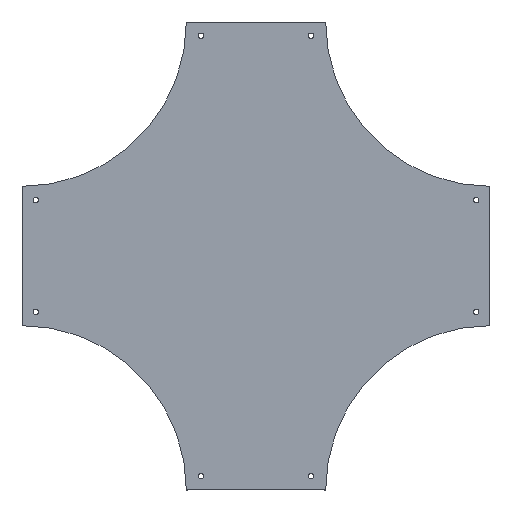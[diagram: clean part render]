
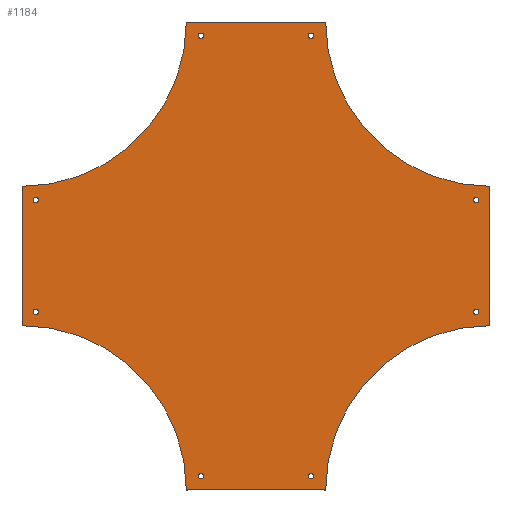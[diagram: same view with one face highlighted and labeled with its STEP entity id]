
A CAD part, top view. The second image highlights one B-rep face of the part: STEP entity #1184.
In plain terms, the highlighted planar face has unit normal (0, 0, 1).
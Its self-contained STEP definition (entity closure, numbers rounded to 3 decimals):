
#86=FACE_BOUND('',#177,.T.);
#87=FACE_BOUND('',#178,.T.);
#88=FACE_BOUND('',#179,.T.);
#89=FACE_BOUND('',#180,.T.);
#90=FACE_BOUND('',#181,.T.);
#91=FACE_BOUND('',#182,.T.);
#92=FACE_BOUND('',#183,.T.);
#93=FACE_BOUND('',#184,.T.);
#102=FACE_OUTER_BOUND('',#176,.T.);
#176=EDGE_LOOP('',(#810,#811,#812,#813,#814,#815,#816,#817));
#177=EDGE_LOOP('',(#818,#819));
#178=EDGE_LOOP('',(#820,#821));
#179=EDGE_LOOP('',(#822,#823));
#180=EDGE_LOOP('',(#824,#825));
#181=EDGE_LOOP('',(#826,#827));
#182=EDGE_LOOP('',(#828,#829));
#183=EDGE_LOOP('',(#830,#831));
#184=EDGE_LOOP('',(#832,#833));
#266=CIRCLE('',#1270,298.5);
#267=CIRCLE('',#1271,298.5);
#268=CIRCLE('',#1272,298.5);
#269=CIRCLE('',#1273,298.5);
#270=CIRCLE('',#1274,5.);
#271=CIRCLE('',#1275,5.);
#272=CIRCLE('',#1276,5.);
#273=CIRCLE('',#1277,5.);
#274=CIRCLE('',#1278,5.);
#275=CIRCLE('',#1279,5.);
#276=CIRCLE('',#1280,5.);
#277=CIRCLE('',#1281,5.);
#278=CIRCLE('',#1282,5.);
#279=CIRCLE('',#1283,5.);
#280=CIRCLE('',#1284,5.);
#281=CIRCLE('',#1285,5.);
#282=CIRCLE('',#1286,5.);
#283=CIRCLE('',#1287,5.);
#284=CIRCLE('',#1288,5.);
#285=CIRCLE('',#1289,5.);
#338=LINE('',#1839,#434);
#339=LINE('',#1843,#435);
#340=LINE('',#1847,#436);
#341=LINE('',#1851,#437);
#434=VECTOR('',#1430,304.8);
#435=VECTOR('',#1433,304.8);
#436=VECTOR('',#1436,304.8);
#437=VECTOR('',#1439,304.8);
#530=VERTEX_POINT('',#1837);
#531=VERTEX_POINT('',#1838);
#532=VERTEX_POINT('',#1840);
#533=VERTEX_POINT('',#1842);
#534=VERTEX_POINT('',#1844);
#535=VERTEX_POINT('',#1846);
#536=VERTEX_POINT('',#1848);
#537=VERTEX_POINT('',#1850);
#538=VERTEX_POINT('',#1853);
#539=VERTEX_POINT('',#1854);
#540=VERTEX_POINT('',#1857);
#541=VERTEX_POINT('',#1858);
#542=VERTEX_POINT('',#1861);
#543=VERTEX_POINT('',#1862);
#544=VERTEX_POINT('',#1865);
#545=VERTEX_POINT('',#1866);
#546=VERTEX_POINT('',#1869);
#547=VERTEX_POINT('',#1870);
#548=VERTEX_POINT('',#1873);
#549=VERTEX_POINT('',#1874);
#550=VERTEX_POINT('',#1877);
#551=VERTEX_POINT('',#1878);
#552=VERTEX_POINT('',#1881);
#553=VERTEX_POINT('',#1882);
#642=EDGE_CURVE('',#530,#531,#338,.T.);
#643=EDGE_CURVE('',#531,#532,#266,.T.);
#644=EDGE_CURVE('',#532,#533,#339,.T.);
#645=EDGE_CURVE('',#533,#534,#267,.T.);
#646=EDGE_CURVE('',#534,#535,#340,.T.);
#647=EDGE_CURVE('',#535,#536,#268,.T.);
#648=EDGE_CURVE('',#536,#537,#341,.T.);
#649=EDGE_CURVE('',#537,#530,#269,.T.);
#650=EDGE_CURVE('',#538,#539,#270,.T.);
#651=EDGE_CURVE('',#539,#538,#271,.T.);
#652=EDGE_CURVE('',#540,#541,#272,.T.);
#653=EDGE_CURVE('',#541,#540,#273,.T.);
#654=EDGE_CURVE('',#542,#543,#274,.T.);
#655=EDGE_CURVE('',#543,#542,#275,.T.);
#656=EDGE_CURVE('',#544,#545,#276,.T.);
#657=EDGE_CURVE('',#545,#544,#277,.T.);
#658=EDGE_CURVE('',#546,#547,#278,.T.);
#659=EDGE_CURVE('',#547,#546,#279,.T.);
#660=EDGE_CURVE('',#548,#549,#280,.T.);
#661=EDGE_CURVE('',#549,#548,#281,.T.);
#662=EDGE_CURVE('',#550,#551,#282,.T.);
#663=EDGE_CURVE('',#551,#550,#283,.T.);
#664=EDGE_CURVE('',#552,#553,#284,.T.);
#665=EDGE_CURVE('',#553,#552,#285,.T.);
#810=ORIENTED_EDGE('',*,*,#642,.T.);
#811=ORIENTED_EDGE('',*,*,#643,.T.);
#812=ORIENTED_EDGE('',*,*,#644,.T.);
#813=ORIENTED_EDGE('',*,*,#645,.T.);
#814=ORIENTED_EDGE('',*,*,#646,.T.);
#815=ORIENTED_EDGE('',*,*,#647,.T.);
#816=ORIENTED_EDGE('',*,*,#648,.T.);
#817=ORIENTED_EDGE('',*,*,#649,.T.);
#818=ORIENTED_EDGE('',*,*,#650,.T.);
#819=ORIENTED_EDGE('',*,*,#651,.T.);
#820=ORIENTED_EDGE('',*,*,#652,.T.);
#821=ORIENTED_EDGE('',*,*,#653,.T.);
#822=ORIENTED_EDGE('',*,*,#654,.T.);
#823=ORIENTED_EDGE('',*,*,#655,.T.);
#824=ORIENTED_EDGE('',*,*,#656,.T.);
#825=ORIENTED_EDGE('',*,*,#657,.T.);
#826=ORIENTED_EDGE('',*,*,#658,.T.);
#827=ORIENTED_EDGE('',*,*,#659,.T.);
#828=ORIENTED_EDGE('',*,*,#660,.T.);
#829=ORIENTED_EDGE('',*,*,#661,.T.);
#830=ORIENTED_EDGE('',*,*,#662,.T.);
#831=ORIENTED_EDGE('',*,*,#663,.T.);
#832=ORIENTED_EDGE('',*,*,#664,.T.);
#833=ORIENTED_EDGE('',*,*,#665,.T.);
#1146=PLANE('',#1269);
#1184=ADVANCED_FACE('',(#102,#86,#87,#88,#89,#90,#91,#92,#93),#1146,.T.);
#1269=AXIS2_PLACEMENT_3D('',#1836,#1428,#1429);
#1270=AXIS2_PLACEMENT_3D('',#1841,#1431,#1432);
#1271=AXIS2_PLACEMENT_3D('',#1845,#1434,#1435);
#1272=AXIS2_PLACEMENT_3D('',#1849,#1437,#1438);
#1273=AXIS2_PLACEMENT_3D('',#1852,#1440,#1441);
#1274=AXIS2_PLACEMENT_3D('',#1855,#1442,#1443);
#1275=AXIS2_PLACEMENT_3D('',#1856,#1444,#1445);
#1276=AXIS2_PLACEMENT_3D('',#1859,#1446,#1447);
#1277=AXIS2_PLACEMENT_3D('',#1860,#1448,#1449);
#1278=AXIS2_PLACEMENT_3D('',#1863,#1450,#1451);
#1279=AXIS2_PLACEMENT_3D('',#1864,#1452,#1453);
#1280=AXIS2_PLACEMENT_3D('',#1867,#1454,#1455);
#1281=AXIS2_PLACEMENT_3D('',#1868,#1456,#1457);
#1282=AXIS2_PLACEMENT_3D('',#1871,#1458,#1459);
#1283=AXIS2_PLACEMENT_3D('',#1872,#1460,#1461);
#1284=AXIS2_PLACEMENT_3D('',#1875,#1462,#1463);
#1285=AXIS2_PLACEMENT_3D('',#1876,#1464,#1465);
#1286=AXIS2_PLACEMENT_3D('',#1879,#1466,#1467);
#1287=AXIS2_PLACEMENT_3D('',#1880,#1468,#1469);
#1288=AXIS2_PLACEMENT_3D('',#1883,#1470,#1471);
#1289=AXIS2_PLACEMENT_3D('',#1884,#1472,#1473);
#1428=DIRECTION('center_axis',(0.,0.,1.));
#1429=DIRECTION('ref_axis',(0.,-1.,0.));
#1430=DIRECTION('',(0.,1.,0.));
#1431=DIRECTION('center_axis',(0.,0.,-1.));
#1432=DIRECTION('ref_axis',(1.,0.,0.));
#1433=DIRECTION('',(-1.,0.,0.));
#1434=DIRECTION('center_axis',(0.,0.,-1.));
#1435=DIRECTION('ref_axis',(1.,0.,0.));
#1436=DIRECTION('',(0.,-1.,0.));
#1437=DIRECTION('center_axis',(0.,0.,-1.));
#1438=DIRECTION('ref_axis',(1.,0.,0.));
#1439=DIRECTION('',(1.,0.,0.));
#1440=DIRECTION('center_axis',(0.,0.,-1.));
#1441=DIRECTION('ref_axis',(1.,0.,0.));
#1442=DIRECTION('center_axis',(0.,0.,-1.));
#1443=DIRECTION('ref_axis',(1.,0.,0.));
#1444=DIRECTION('center_axis',(0.,0.,-1.));
#1445=DIRECTION('ref_axis',(1.,0.,0.));
#1446=DIRECTION('center_axis',(0.,0.,-1.));
#1447=DIRECTION('ref_axis',(1.,0.,0.));
#1448=DIRECTION('center_axis',(0.,0.,-1.));
#1449=DIRECTION('ref_axis',(1.,0.,0.));
#1450=DIRECTION('center_axis',(0.,0.,-1.));
#1451=DIRECTION('ref_axis',(1.,0.,0.));
#1452=DIRECTION('center_axis',(0.,0.,-1.));
#1453=DIRECTION('ref_axis',(1.,0.,0.));
#1454=DIRECTION('center_axis',(0.,0.,-1.));
#1455=DIRECTION('ref_axis',(1.,0.,0.));
#1456=DIRECTION('center_axis',(0.,0.,-1.));
#1457=DIRECTION('ref_axis',(1.,0.,0.));
#1458=DIRECTION('center_axis',(0.,0.,-1.));
#1459=DIRECTION('ref_axis',(1.,0.,0.));
#1460=DIRECTION('center_axis',(0.,0.,-1.));
#1461=DIRECTION('ref_axis',(1.,0.,0.));
#1462=DIRECTION('center_axis',(0.,0.,-1.));
#1463=DIRECTION('ref_axis',(1.,0.,0.));
#1464=DIRECTION('center_axis',(0.,0.,-1.));
#1465=DIRECTION('ref_axis',(1.,0.,0.));
#1466=DIRECTION('center_axis',(0.,0.,-1.));
#1467=DIRECTION('ref_axis',(1.,0.,0.));
#1468=DIRECTION('center_axis',(0.,0.,-1.));
#1469=DIRECTION('ref_axis',(1.,0.,0.));
#1470=DIRECTION('center_axis',(0.,0.,-1.));
#1471=DIRECTION('ref_axis',(1.,0.,0.));
#1472=DIRECTION('center_axis',(0.,0.,-1.));
#1473=DIRECTION('ref_axis',(1.,0.,0.));
#1836=CARTESIAN_POINT('Origin',(-126.5,-425.,1.5));
#1837=CARTESIAN_POINT('',(425.,-126.5,1.5));
#1838=CARTESIAN_POINT('',(425.,126.5,1.5));
#1839=CARTESIAN_POINT('',(425.,-126.5,1.5));
#1840=CARTESIAN_POINT('',(126.5,425.,1.5));
#1841=CARTESIAN_POINT('Origin',(425.,425.,1.5));
#1842=CARTESIAN_POINT('',(-126.5,425.,1.5));
#1843=CARTESIAN_POINT('',(126.5,425.,1.5));
#1844=CARTESIAN_POINT('',(-425.,126.5,1.5));
#1845=CARTESIAN_POINT('Origin',(-425.,425.,1.5));
#1846=CARTESIAN_POINT('',(-425.,-126.5,1.5));
#1847=CARTESIAN_POINT('',(-425.,126.5,1.5));
#1848=CARTESIAN_POINT('',(-126.5,-425.,1.5));
#1849=CARTESIAN_POINT('Origin',(-425.,-425.,1.5));
#1850=CARTESIAN_POINT('',(126.5,-425.,1.5));
#1851=CARTESIAN_POINT('',(-126.5,-425.,1.5));
#1852=CARTESIAN_POINT('Origin',(425.,-425.,1.5));
#1853=CARTESIAN_POINT('',(-395.,101.5,1.5));
#1854=CARTESIAN_POINT('',(-405.,101.5,1.5));
#1855=CARTESIAN_POINT('Origin',(-400.,101.5,1.5));
#1856=CARTESIAN_POINT('Origin',(-400.,101.5,1.5));
#1857=CARTESIAN_POINT('',(-395.,-101.5,1.5));
#1858=CARTESIAN_POINT('',(-405.,-101.5,1.5));
#1859=CARTESIAN_POINT('Origin',(-400.,-101.5,1.5));
#1860=CARTESIAN_POINT('Origin',(-400.,-101.5,1.5));
#1861=CARTESIAN_POINT('',(105.,400.,1.5));
#1862=CARTESIAN_POINT('',(95.,400.,1.5));
#1863=CARTESIAN_POINT('Origin',(100.,400.,1.5));
#1864=CARTESIAN_POINT('Origin',(100.,400.,1.5));
#1865=CARTESIAN_POINT('',(-95.,400.,1.5));
#1866=CARTESIAN_POINT('',(-105.,400.,1.5));
#1867=CARTESIAN_POINT('Origin',(-100.,400.,1.5));
#1868=CARTESIAN_POINT('Origin',(-100.,400.,1.5));
#1869=CARTESIAN_POINT('',(405.,101.5,1.5));
#1870=CARTESIAN_POINT('',(395.,101.5,1.5));
#1871=CARTESIAN_POINT('Origin',(400.,101.5,1.5));
#1872=CARTESIAN_POINT('Origin',(400.,101.5,1.5));
#1873=CARTESIAN_POINT('',(405.,-101.5,1.5));
#1874=CARTESIAN_POINT('',(395.,-101.5,1.5));
#1875=CARTESIAN_POINT('Origin',(400.,-101.5,1.5));
#1876=CARTESIAN_POINT('Origin',(400.,-101.5,1.5));
#1877=CARTESIAN_POINT('',(-95.,-400.,1.5));
#1878=CARTESIAN_POINT('',(-105.,-400.,1.5));
#1879=CARTESIAN_POINT('Origin',(-100.,-400.,1.5));
#1880=CARTESIAN_POINT('Origin',(-100.,-400.,1.5));
#1881=CARTESIAN_POINT('',(105.,-400.,1.5));
#1882=CARTESIAN_POINT('',(95.,-400.,1.5));
#1883=CARTESIAN_POINT('Origin',(100.,-400.,1.5));
#1884=CARTESIAN_POINT('Origin',(100.,-400.,1.5));
